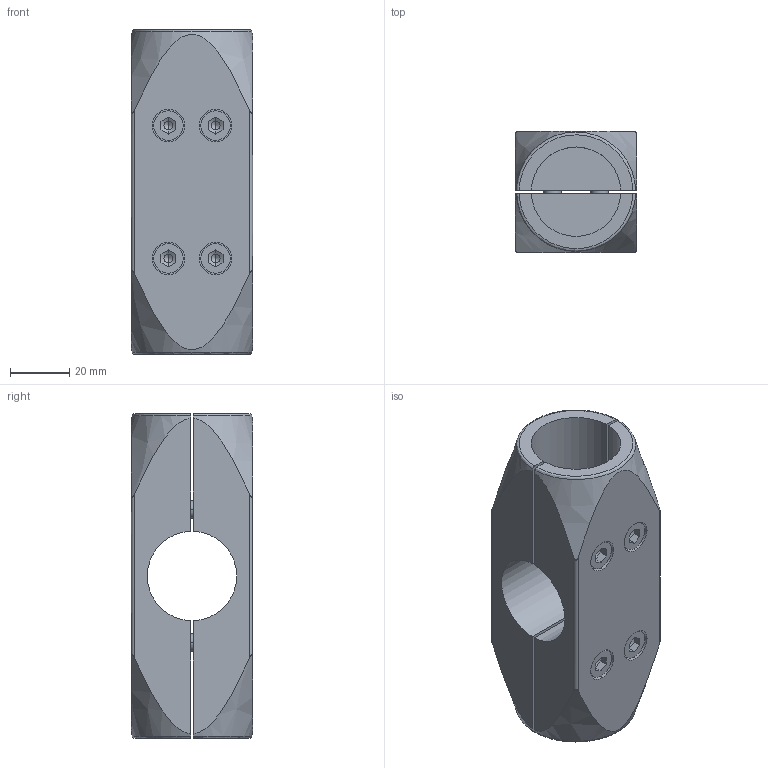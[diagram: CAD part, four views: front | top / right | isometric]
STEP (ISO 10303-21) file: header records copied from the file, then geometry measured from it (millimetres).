
FILE_DESCRIPTION (( 'STEP AP214' ), '1' );
FILE_NAME ('31000410014.STEP', '2024-09-02T09:44:04', ( '' ), ( '' ), 'SwSTEP 2.0', 'SolidWorks 2016', '' );
FILE_SCHEMA (( 'AUTOMOTIVE_DESIGN' ));
Length unit declared in the file: millimetre
Products named in the file (5): 2330_Schale1; DIN 6912  (Regelgewinde) M6 x 30_1; 31000410014; 2330_Schale2; 635179_H³lsenmutter_2
Assembly tree (10 placements, depth 2):
  31000410014
    2330_Schale1
    2330_Schale2
    DIN 6912  (Regelgewinde) M6 x 30_1  x4
    635179_H³lsenmutter_2  x4
Bounding box: 41 x 41 x 110 mm (x, y, z)
Volume: 108489.1 mm3; surface area: 40612 mm2
Topology: 10 solids, 10 shells, 224 faces, 528 edges, 332 vertices
Faces by surface type: cylinder 90, plane 70, cone 44, bspline 12, sphere 8
Entity records: 5435 total; most frequent: CARTESIAN_POINT 1281, DIRECTION 586, ORIENTED_EDGE 544, EDGE_CURVE 272, AXIS2_PLACEMENT_3D 240, VERTEX_POINT 179, EDGE_LOOP 141, UNCERTAINTY_MEASURE_WITH_UNIT 126
